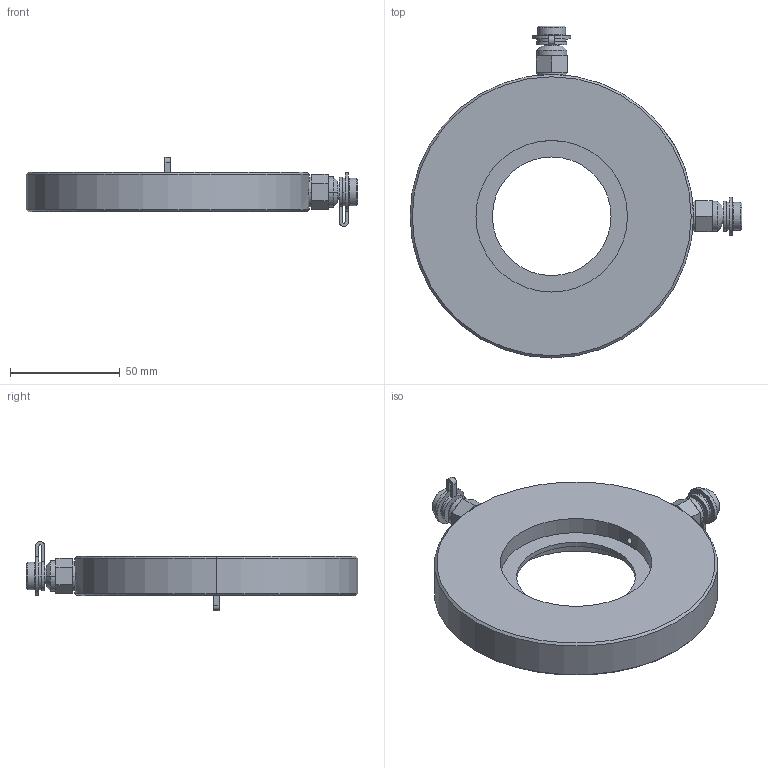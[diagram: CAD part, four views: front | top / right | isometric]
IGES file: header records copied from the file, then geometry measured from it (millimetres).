
Global section: file name: No Iges File Name specified; native system: AutoDesk Inventor R12.0; preprocessor: AutoDesk Inventor Iges Exporter R12.0; date: 20101223.093103; units: millimetre
Bounding box: 151.1 x 151.1 x 31.45 mm (x, y, z)
Volume: 177313.2 mm3; surface area: 35734.4 mm2
Topology: 1 solids, 1 shells, 125 faces, 290 edges, 186 vertices
Faces by surface type: plane 48, cylinder 29, bspline 18, cone 16, revolution 14
